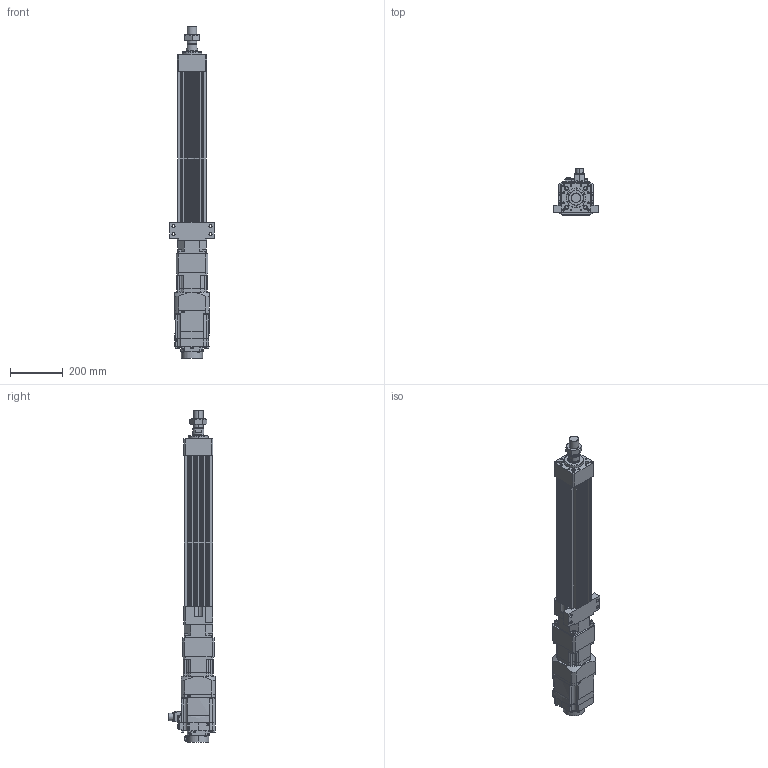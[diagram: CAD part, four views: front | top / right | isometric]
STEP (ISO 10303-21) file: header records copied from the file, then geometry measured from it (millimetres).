
FILE_DESCRIPTION (( 'STEP AP203' ), '1' );
FILE_NAME ('HES110NS(HS)-S400-W015G00-M-FFC.STEP', '2026-06-10T06:03:40', ( 'tms' ), ( '' ), 'SwSTEP 2.0', 'SolidWorks 2013', '' );
FILE_SCHEMA (( 'CONFIG_CONTROL_DESIGN' ));
Length unit declared in the file: millimetre
Products named in the file (8): HES110-M-ROD-400; AB1152; HES110-S-G120; M36X1.5P; AB1151; HES110-FFC-400; HES110NS(HS)-S400-W015G00-M-FFC; HG-SR152B
Assembly tree (7 placements, depth 2):
  HES110NS(HS)-S400-W015G00-M-FFC
    HES110-FFC-400
    HES110-M-ROD-400
    M36X1.5P
    HES110-S-G120
    AB1151
    AB1152
    HG-SR152B
Bounding box: 170 x 177.49 x 1256 mm (x, y, z)
Volume: 8449888.1 mm3; surface area: 1120042.8 mm2
Topology: 5 solids, 12 shells, 1233 faces, 3122 edges, 2017 vertices
Faces by surface type: cylinder 570, plane 555, cone 94, bspline 10, torus 4
Entity records: 38913 total; most frequent: CARTESIAN_POINT 7463, DIRECTION 6733, ORIENTED_EDGE 6168, EDGE_CURVE 3094, AXIS2_PLACEMENT_3D 2500, VERTEX_POINT 2017, LINE 1733, VECTOR 1733
